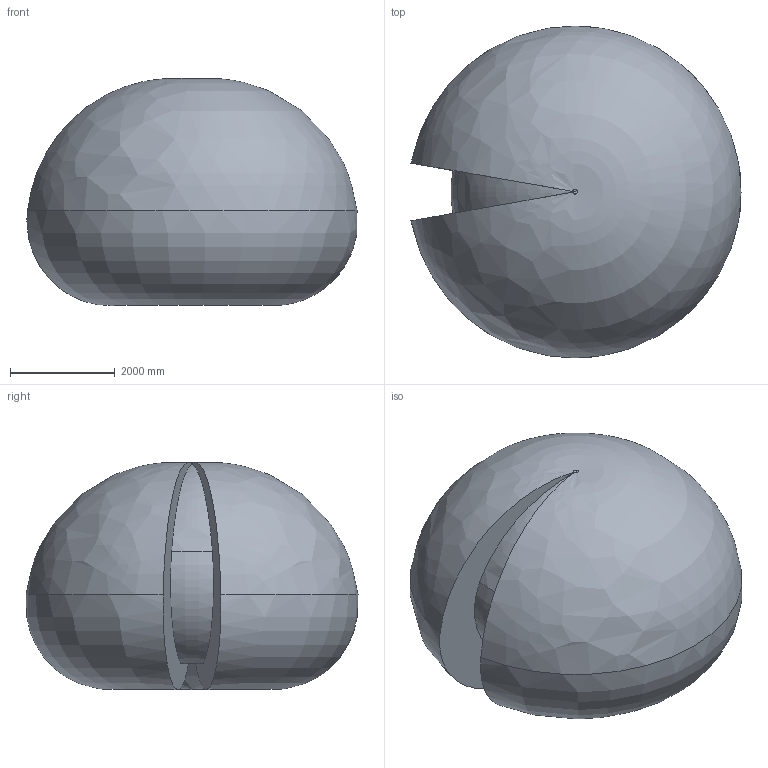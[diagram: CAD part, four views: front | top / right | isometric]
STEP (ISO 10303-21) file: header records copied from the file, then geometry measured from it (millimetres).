
FILE_DESCRIPTION (( 'STEP AP214' ), '1' );
FILE_NAME ('IRB6760_All-320_OC_00_Working-envelope.step', '2025-09-30T13:09:21', ( '' ), ( '' ), 'SwSTEP 2.0', 'SolidWorks 2024', '' );
FILE_SCHEMA (( 'AUTOMOTIVE_DESIGN' ));
Length unit declared in the file: millimetre
Products named in the file (1): IRB6760_All-320_OC_00_Working-envelope
Bounding box: 6289.22 x 6325.68 x 4327.52 mm (x, y, z)
Volume: 89504710837.3 mm3; surface area: 132610871.5 mm2
Topology: 1 solids, 1 shells, 15 faces, 42 edges, 25 vertices
Faces by surface type: bspline 9, plane 6
Entity records: 1588 total; most frequent: CARTESIAN_POINT 1277, ORIENTED_EDGE 76, EDGE_CURVE 38, DIRECTION 37, B_SPLINE_CURVE_WITH_KNOTS 26, VERTEX_POINT 25, AXIS2_PLACEMENT_3D 18, FACE_OUTER_BOUND 15
